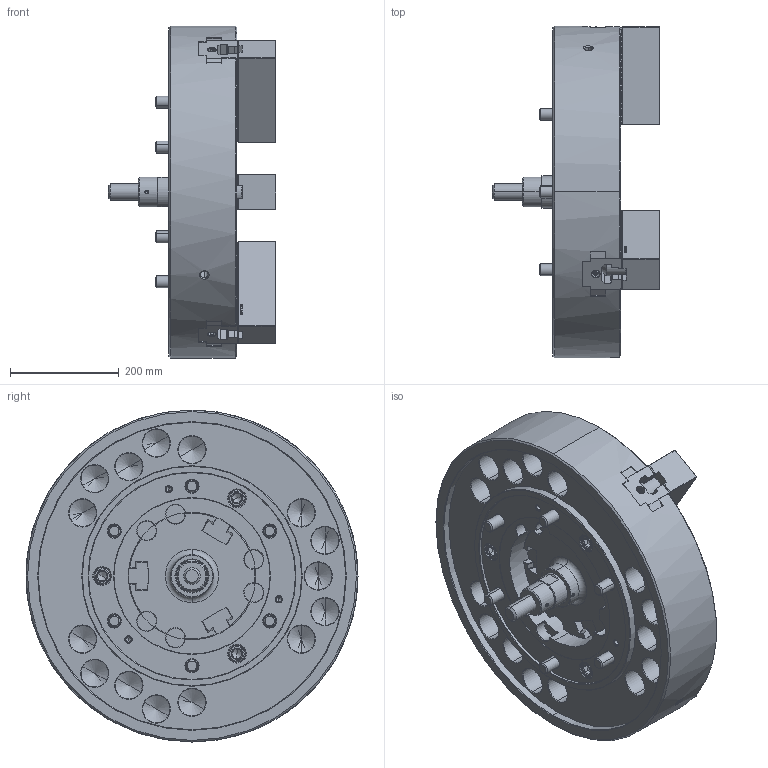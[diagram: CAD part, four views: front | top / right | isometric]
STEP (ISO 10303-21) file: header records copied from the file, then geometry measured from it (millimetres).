
FILE_DESCRIPTION (( 'STEP AP214' ), '1' );
FILE_NAME ('DT1_N-24_OUTSIDE_VIEW_UC.STEP', '2026-03-19T01:33:32', ( '' ), ( '' ), 'SwSTEP 2.0', 'SolidWorks 2022', '' );
FILE_SCHEMA (( 'AUTOMOTIVE_DESIGN' ));
Length unit declared in the file: millimetre
Products named in the file (11): DT1_N-24_M22x120^DT1_N-24; DT1_N-24_DN^DT1_N-24; DT1_N-24_M6x12^DT1_N-24; Copy of 61P321208^DT1_N-24; DT1_N-24_TNUT^DT1_N-24; DT1_N-24_SOFTJAW^DT1_N-24; DT1_N-24_COVER^DT1_N-24; DT1_N-24_DRAWSCREW^DT1_N-24; DT1_N-24_M20x60^DT1_N-24; DT1_N-24_BASE^DT1_N-24; DT1_N-24_OUTSIDE_VIEW_UC
Assembly tree (29 placements, depth 2):
  DT1_N-24_OUTSIDE_VIEW_UC
    DT1_N-24_SOFTJAW^DT1_N-24  x3
    DT1_N-24_TNUT^DT1_N-24  x6
    DT1_N-24_COVER^DT1_N-24
    DT1_N-24_DRAWSCREW^DT1_N-24
    Copy of 61P321208^DT1_N-24
    DT1_N-24_DN^DT1_N-24
    DT1_N-24_BASE^DT1_N-24
    DT1_N-24_M6x12^DT1_N-24  x3
    DT1_N-24_M22x120^DT1_N-24  x6
    DT1_N-24_M20x60^DT1_N-24  x6
Bounding box: 307 x 610 x 610 mm (x, y, z)
Volume: 32748965.4 mm3; surface area: 1891211.6 mm2
Topology: 29 solids, 35 shells, 7935 faces, 22558 edges, 14832 vertices
Faces by surface type: plane 5019, cylinder 1502, bspline 836, cone 510, torus 62, sphere 6
Entity records: 221098 total; most frequent: CARTESIAN_POINT 70129, ORIENTED_EDGE 34256, DIRECTION 26652, EDGE_CURVE 17128, LINE 12912, VECTOR 12912, VERTEX_POINT 11306, AXIS2_PLACEMENT_3D 6870
